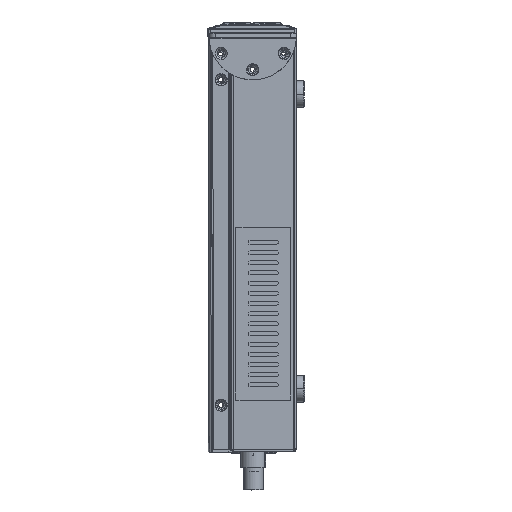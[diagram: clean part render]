
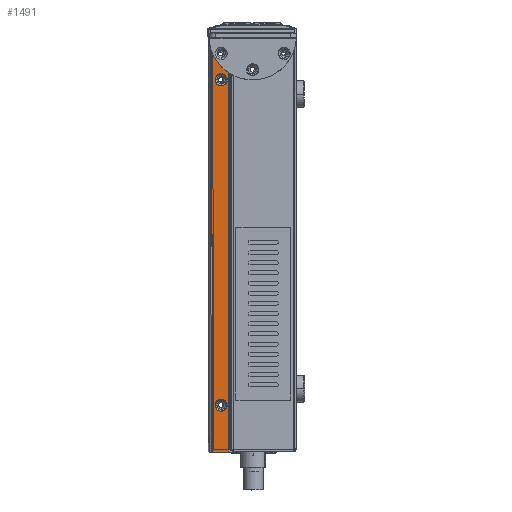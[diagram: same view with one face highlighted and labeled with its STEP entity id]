
A CAD part, left-side view. The second image highlights one B-rep face of the part: STEP entity #1491.
In plain terms, the highlighted planar face has unit normal (-1, -0.002, -0.001).
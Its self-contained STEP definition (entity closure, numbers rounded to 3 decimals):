
#1491=ADVANCED_FACE('',(#7263,#6349,#6350,#6351),#85663,.T.);
#6349=FACE_BOUND('',#12478,.T.);
#6350=FACE_BOUND('',#12479,.T.);
#6351=FACE_BOUND('',#12480,.T.);
#7263=FACE_OUTER_BOUND('',#12477,.T.);
#12477=EDGE_LOOP('',(#19561,#19562,#19563,#19564,#19565,#19566));
#12478=EDGE_LOOP('',(#19567,#19568));
#12479=EDGE_LOOP('',(#19569,#19570));
#12480=EDGE_LOOP('',(#19571,#19572));
#19561=ORIENTED_EDGE('',*,*,#47319,.F.);
#19562=ORIENTED_EDGE('',*,*,#47311,.F.);
#19563=ORIENTED_EDGE('',*,*,#47370,.T.);
#19564=ORIENTED_EDGE('',*,*,#47363,.T.);
#19565=ORIENTED_EDGE('',*,*,#47366,.T.);
#19566=ORIENTED_EDGE('',*,*,#47325,.T.);
#19567=ORIENTED_EDGE('',*,*,#47364,.T.);
#19568=ORIENTED_EDGE('',*,*,#47359,.T.);
#19569=ORIENTED_EDGE('',*,*,#47376,.T.);
#19570=ORIENTED_EDGE('',*,*,#47372,.T.);
#19571=ORIENTED_EDGE('',*,*,#47382,.T.);
#19572=ORIENTED_EDGE('',*,*,#47378,.T.);
#47311=EDGE_CURVE('',#75713,#75712,#63026,.T.);
#47319=EDGE_CURVE('',#75712,#75719,#63032,.T.);
#47325=EDGE_CURVE('',#75725,#75719,#63038,.T.);
#47359=EDGE_CURVE('',#75750,#75751,#61244,.T.);
#47363=EDGE_CURVE('',#75753,#75752,#63054,.T.);
#47364=EDGE_CURVE('',#75751,#75750,#61246,.T.);
#47366=EDGE_CURVE('',#75752,#75725,#61248,.T.);
#47370=EDGE_CURVE('',#75713,#75753,#61250,.T.);
#47372=EDGE_CURVE('',#75754,#75755,#61252,.T.);
#47376=EDGE_CURVE('',#75755,#75754,#61254,.T.);
#47378=EDGE_CURVE('',#75756,#75757,#61256,.T.);
#47382=EDGE_CURVE('',#75757,#75756,#61258,.T.);
#61244=(
BOUNDED_CURVE()
B_SPLINE_CURVE(2,(#104918,#104919,#104920,#104921,#104922),
 .UNSPECIFIED.,.F.,.F.)
B_SPLINE_CURVE_WITH_KNOTS((3,2,3),(0.,3.142,6.283),
 .UNSPECIFIED.)
CURVE()
GEOMETRIC_REPRESENTATION_ITEM()
RATIONAL_B_SPLINE_CURVE((1.,0.707,1.,0.707,1.))
REPRESENTATION_ITEM('')
);
#61246=(
BOUNDED_CURVE()
B_SPLINE_CURVE(2,(#104934,#104935,#104936,#104937,#104938),
 .UNSPECIFIED.,.F.,.F.)
B_SPLINE_CURVE_WITH_KNOTS((3,2,3),(0.,3.142,6.283),
 .UNSPECIFIED.)
CURVE()
GEOMETRIC_REPRESENTATION_ITEM()
RATIONAL_B_SPLINE_CURVE((1.,0.707,1.,0.707,1.))
REPRESENTATION_ITEM('')
);
#61248=(
BOUNDED_CURVE()
B_SPLINE_CURVE(2,(#104944,#104945,#104946),.UNSPECIFIED.,.F.,.F.)
B_SPLINE_CURVE_WITH_KNOTS((3,3),(0.,1.571),.UNSPECIFIED.)
CURVE()
GEOMETRIC_REPRESENTATION_ITEM()
RATIONAL_B_SPLINE_CURVE((1.,0.707,1.))
REPRESENTATION_ITEM('')
);
#61250=(
BOUNDED_CURVE()
B_SPLINE_CURVE(2,(#104954,#104955,#104956),.UNSPECIFIED.,.F.,.F.)
B_SPLINE_CURVE_WITH_KNOTS((3,3),(0.,1.571),.UNSPECIFIED.)
CURVE()
GEOMETRIC_REPRESENTATION_ITEM()
RATIONAL_B_SPLINE_CURVE((1.,0.707,1.))
REPRESENTATION_ITEM('')
);
#61252=(
BOUNDED_CURVE()
B_SPLINE_CURVE(2,(#104960,#104961,#104962,#104963,#104964),
 .UNSPECIFIED.,.F.,.F.)
B_SPLINE_CURVE_WITH_KNOTS((3,2,3),(0.,4.712,9.425),
 .UNSPECIFIED.)
CURVE()
GEOMETRIC_REPRESENTATION_ITEM()
RATIONAL_B_SPLINE_CURVE((1.,0.707,1.,0.707,1.))
REPRESENTATION_ITEM('')
);
#61254=(
BOUNDED_CURVE()
B_SPLINE_CURVE(2,(#104974,#104975,#104976,#104977,#104978),
 .UNSPECIFIED.,.F.,.F.)
B_SPLINE_CURVE_WITH_KNOTS((3,2,3),(0.,4.712,9.425),
 .UNSPECIFIED.)
CURVE()
GEOMETRIC_REPRESENTATION_ITEM()
RATIONAL_B_SPLINE_CURVE((1.,0.707,1.,0.707,1.))
REPRESENTATION_ITEM('')
);
#61256=(
BOUNDED_CURVE()
B_SPLINE_CURVE(2,(#104984,#104985,#104986,#104987,#104988),
 .UNSPECIFIED.,.F.,.F.)
B_SPLINE_CURVE_WITH_KNOTS((3,2,3),(0.,4.712,9.425),
 .UNSPECIFIED.)
CURVE()
GEOMETRIC_REPRESENTATION_ITEM()
RATIONAL_B_SPLINE_CURVE((1.,0.707,1.,0.707,1.))
REPRESENTATION_ITEM('')
);
#61258=(
BOUNDED_CURVE()
B_SPLINE_CURVE(2,(#104998,#104999,#105000,#105001,#105002),
 .UNSPECIFIED.,.F.,.F.)
B_SPLINE_CURVE_WITH_KNOTS((3,2,3),(0.,4.712,9.425),
 .UNSPECIFIED.)
CURVE()
GEOMETRIC_REPRESENTATION_ITEM()
RATIONAL_B_SPLINE_CURVE((1.,0.707,1.,0.707,1.))
REPRESENTATION_ITEM('')
);
#63026=B_SPLINE_CURVE_WITH_KNOTS('',1,(#104776,#104777),.UNSPECIFIED.,.F.,
 .F.,(2,2),(-7.5,0.),.UNSPECIFIED.);
#63032=B_SPLINE_CURVE_WITH_KNOTS('',1,(#104794,#104795),.UNSPECIFIED.,.F.,
 .F.,(2,2),(-206.,0.),.UNSPECIFIED.);
#63038=B_SPLINE_CURVE_WITH_KNOTS('',1,(#104806,#104807),.UNSPECIFIED.,.F.,
 .F.,(2,2),(0.,7.5),.UNSPECIFIED.);
#63054=B_SPLINE_CURVE_WITH_KNOTS('',1,(#104932,#104933),.UNSPECIFIED.,.F.,
 .F.,(2,2),(-204.,0.),.UNSPECIFIED.);
#75712=VERTEX_POINT('',#104634);
#75713=VERTEX_POINT('',#104635);
#75719=VERTEX_POINT('',#104641);
#75725=VERTEX_POINT('',#104647);
#75750=VERTEX_POINT('',#104672);
#75751=VERTEX_POINT('',#104673);
#75752=VERTEX_POINT('',#104674);
#75753=VERTEX_POINT('',#104675);
#75754=VERTEX_POINT('',#104676);
#75755=VERTEX_POINT('',#104677);
#75756=VERTEX_POINT('',#104678);
#75757=VERTEX_POINT('',#104679);
#85663=PLANE('',#89656);
#89656=AXIS2_PLACEMENT_3D('',#104535,#93945,$);
#93945=DIRECTION('',(-1.,-0.002,-0.001));
#104535=CARTESIAN_POINT('',(-107.087,21.253,-236.797));
#104634=CARTESIAN_POINT('',(-107.106,20.016,-215.826));
#104635=CARTESIAN_POINT('',(-107.092,12.525,-215.824));
#104641=CARTESIAN_POINT('',(-107.318,20.073,-10.056));
#104647=CARTESIAN_POINT('',(-107.304,12.581,-10.054));
#104672=CARTESIAN_POINT('',(-107.298,15.575,-22.041));
#104673=CARTESIAN_POINT('',(-107.302,15.576,-18.046));
#104674=CARTESIAN_POINT('',(-107.302,11.582,-11.052));
#104675=CARTESIAN_POINT('',(-107.091,11.526,-214.825));
#104676=CARTESIAN_POINT('',(-107.116,12.531,-192.85));
#104677=CARTESIAN_POINT('',(-107.127,18.524,-192.852));
#104678=CARTESIAN_POINT('',(-107.281,12.575,-33.028));
#104679=CARTESIAN_POINT('',(-107.292,18.568,-33.03));
#104776=CARTESIAN_POINT('',(-107.092,12.525,-215.824));
#104777=CARTESIAN_POINT('',(-107.106,20.016,-215.826));
#104794=CARTESIAN_POINT('',(-107.106,20.016,-215.826));
#104795=CARTESIAN_POINT('',(-107.318,20.073,-10.056));
#104806=CARTESIAN_POINT('',(-107.304,12.581,-10.054));
#104807=CARTESIAN_POINT('',(-107.318,20.073,-10.056));
#104918=CARTESIAN_POINT('',(-107.298,15.575,-22.041));
#104919=CARTESIAN_POINT('',(-107.301,17.573,-22.042));
#104920=CARTESIAN_POINT('',(-107.303,17.573,-20.044));
#104921=CARTESIAN_POINT('',(-107.306,17.574,-18.046));
#104922=CARTESIAN_POINT('',(-107.302,15.576,-18.046));
#104932=CARTESIAN_POINT('',(-107.091,11.526,-214.825));
#104933=CARTESIAN_POINT('',(-107.302,11.582,-11.052));
#104934=CARTESIAN_POINT('',(-107.302,15.576,-18.046));
#104935=CARTESIAN_POINT('',(-107.298,13.578,-18.045));
#104936=CARTESIAN_POINT('',(-107.296,13.578,-20.043));
#104937=CARTESIAN_POINT('',(-107.294,13.577,-22.041));
#104938=CARTESIAN_POINT('',(-107.298,15.575,-22.041));
#104944=CARTESIAN_POINT('',(-107.302,11.582,-11.052));
#104945=CARTESIAN_POINT('',(-107.303,11.583,-10.053));
#104946=CARTESIAN_POINT('',(-107.304,12.581,-10.054));
#104954=CARTESIAN_POINT('',(-107.092,12.525,-215.824));
#104955=CARTESIAN_POINT('',(-107.09,11.526,-215.824));
#104956=CARTESIAN_POINT('',(-107.091,11.526,-214.825));
#104960=CARTESIAN_POINT('',(-107.116,12.531,-192.85));
#104961=CARTESIAN_POINT('',(-107.113,12.53,-195.847));
#104962=CARTESIAN_POINT('',(-107.118,15.527,-195.847));
#104963=CARTESIAN_POINT('',(-107.124,18.523,-195.848));
#104964=CARTESIAN_POINT('',(-107.127,18.524,-192.852));
#104974=CARTESIAN_POINT('',(-107.127,18.524,-192.852));
#104975=CARTESIAN_POINT('',(-107.13,18.525,-189.855));
#104976=CARTESIAN_POINT('',(-107.125,15.528,-189.854));
#104977=CARTESIAN_POINT('',(-107.119,12.532,-189.853));
#104978=CARTESIAN_POINT('',(-107.116,12.531,-192.85));
#104984=CARTESIAN_POINT('',(-107.281,12.575,-33.028));
#104985=CARTESIAN_POINT('',(-107.278,12.574,-36.025));
#104986=CARTESIAN_POINT('',(-107.283,15.571,-36.026));
#104987=CARTESIAN_POINT('',(-107.289,18.568,-36.026));
#104988=CARTESIAN_POINT('',(-107.292,18.568,-33.03));
#104998=CARTESIAN_POINT('',(-107.292,18.568,-33.03));
#104999=CARTESIAN_POINT('',(-107.295,18.569,-30.033));
#105000=CARTESIAN_POINT('',(-107.289,15.573,-30.032));
#105001=CARTESIAN_POINT('',(-107.284,12.576,-30.031));
#105002=CARTESIAN_POINT('',(-107.281,12.575,-33.028));
